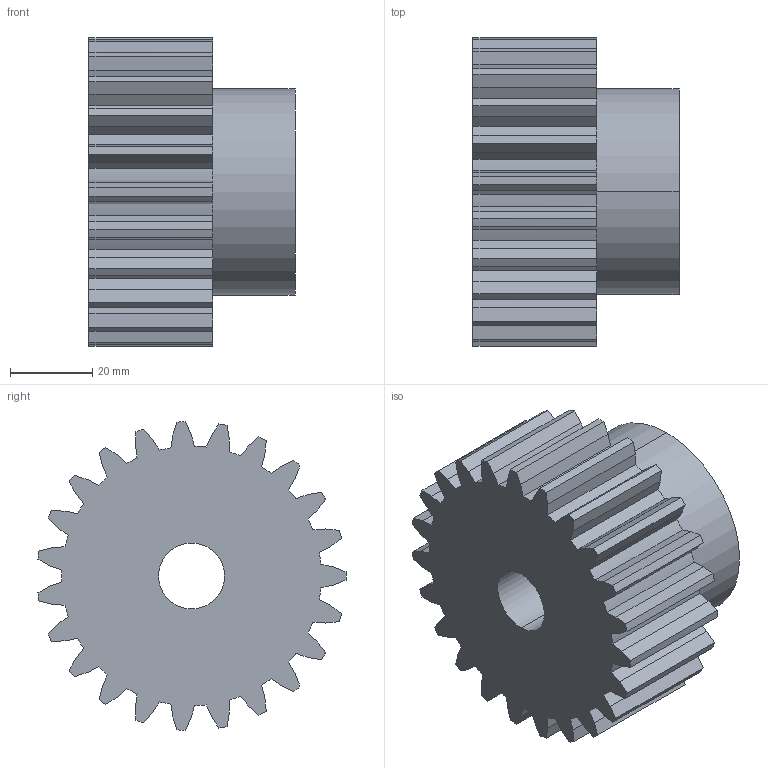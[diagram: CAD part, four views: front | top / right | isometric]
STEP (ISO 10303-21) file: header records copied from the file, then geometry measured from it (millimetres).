
FILE_DESCRIPTION (( 'STEP AP203' ), '1' );
FILE_NAME ('PM 30023.STEP', '2013-09-25T13:46:15', ( '' ), ( '' ), 'SwSTEP 2.0', 'SolidWorks 2010', '' );
FILE_SCHEMA (( 'CONFIG_CONTROL_DESIGN' ));
Length unit declared in the file: millimetre
Products named in the file (1): PM 30023
Bounding box: 50 x 74.77 x 74.94 mm (x, y, z)
Volume: 139863.9 mm3; surface area: 24843 mm2
Topology: 1 solids, 1 shells, 145 faces, 426 edges, 284 vertices
Faces by surface type: plane 95, cylinder 50
Entity records: 4993 total; most frequent: CARTESIAN_POINT 1198, ORIENTED_EDGE 852, DIRECTION 682, EDGE_CURVE 426, VERTEX_POINT 284, LINE 234, VECTOR 234, AXIS2_PLACEMENT_3D 224
